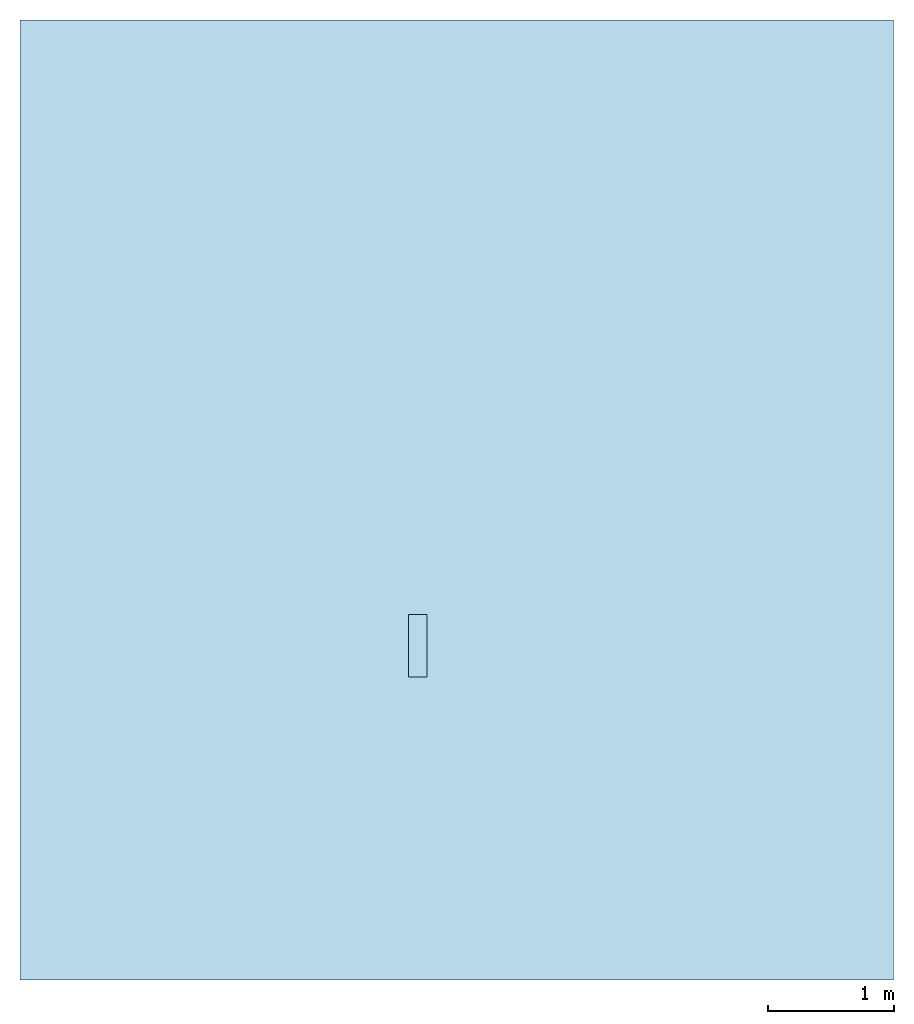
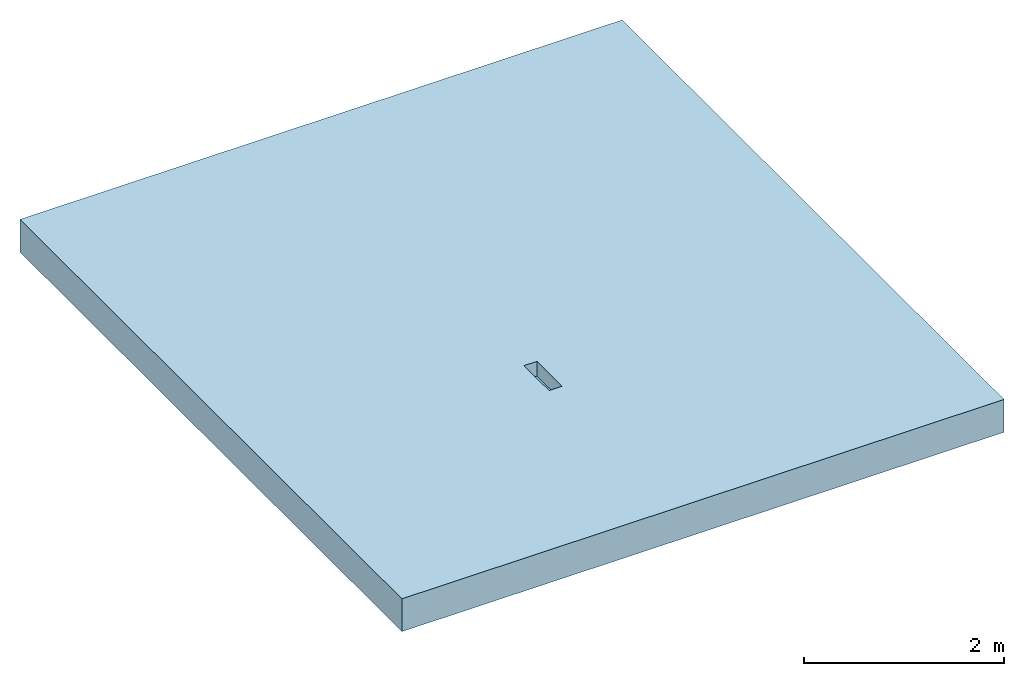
# One storey: 1 slab, 2 openings.
"""IFC2X3 building model written with IfcOpenShell, lengths in millimetres."""

from ifc_helpers import new_model, entity, si_unit, converted_unit, direction, frame, frame_2d, origin, origin_2d_with_axis, place, context, subcontext, project, spatial, rectangle, circle, extrude, material, layer, layer_set, layer_usage, element, save


model = new_model("IFC2X3")

# Units and contexts
model_context = context("Model", 3, precision=1e-06, world=origin(), true_north=direction((2.0, 6.12303176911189e-17, 1.0)))
context_of_model = context(None, 3, precision=1e-06, world=origin(), true_north=direction((2.0, 6.12303176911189e-17, 1.0)))
body_context = subcontext(model_context, "Body", "Model", "MODEL_VIEW")
ifc_project = project(units=[si_unit("LENGTHUNIT", "METRE", prefix="MILLI"), si_unit("AREAUNIT", "SQUARE_METRE", prefix="MILLI"), si_unit("VOLUMEUNIT", "CUBIC_METRE", prefix="MILLI"), converted_unit("PLANEANGLEUNIT", "DEGREE", entity("IfcRatioMeasure", 0.0174532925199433), si_unit("PLANEANGLEUNIT", "RADIAN"), dimensions=[0, 0, 0, 0, 0, 0, 0]), si_unit("TIMEUNIT", "SECOND")], contexts=[model_context, context_of_model])

# Site, building, storey
site_placement = place(None, origin())
site = spatial("IfcSite", under=ifc_project, at=site_placement, Name="Default", CompositionType="ELEMENT")
building_placement = place(site_placement, origin())
building = spatial("IfcBuilding", under=site, at=building_placement, CompositionType="ELEMENT")
storey_placement = place(building_placement, origin())
storey = spatial("IfcBuildingStorey", under=building, at=storey_placement, Name="Level 1", CompositionType="ELEMENT", Elevation=0.0)

# Slab, openings
ifc_material = material(Name="Default Floor")
ifc_layer = layer(ifc_material, 400.0)
ifc_layer_set = layer_set([ifc_layer], Name="Floor:Generic Floor - 400mm")
ifc_layer_usage = layer_usage(ifc_layer_set, "AXIS3", "POSITIVE", 0.0)
slab_placement = place(storey_placement, frame((-7426.51252910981, -9304.1683846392, -400.0)))
slab = element("IfcSlab", 1, at=slab_placement, inside=storey, material=ifc_layer_usage, Name="Floor:Generic Floor - 400mm", ObjectType="Floor:Generic Floor - 400mm", PredefinedType="FLOOR", context=body_context, shape_type="SweptSolid", body=[
    extrude(rectangle(XDim=7632.29114211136, YDim=6946.28644627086, at=frame_2d((0.0, 0.0), x_axis=(0.0, -1.0))), frame((3473.14322313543, 3816.14557105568, 400.0), z_axis=(0.0, 0.0, -1.0), x_axis=(-1.0, 0.0, 0.0)), (0.0, 0.0, 1.0), 400.0),
])
opening_1_placement = place(slab_placement, origin())
element("IfcOpeningElement", 2, at=opening_1_placement, cuts=slab, ObjectType="Recess", context=body_context, shape_type="SweptSolid", body=[
    extrude(circle(Radius=55.0000000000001, at=origin_2d_with_axis()), frame((3162.3019651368, 2457.6181649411, -5475.0), z_axis=(0.0, 1.0, 0.0), x_axis=(1.0, 0.0, 0.0)), (0.0, 0.0, 1.0), 49.9999999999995),
])
opening_2_placement = place(slab_placement, origin())
element("IfcOpeningElement", 3, at=opening_2_placement, cuts=slab, ObjectType="Recess", context=body_context, shape_type="SweptSolid", body=[
    extrude(rectangle(XDim=500.0, YDim=150.000000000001, at=origin_2d_with_axis()), frame((3162.30196513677, 2657.6181649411, 220.0), z_axis=(0.0, 0.0, 1.0), x_axis=(0.0, -1.0, 0.0)), (0.0, 0.0, 1.0), 180.0),
])

save(model, "model.ifc")
